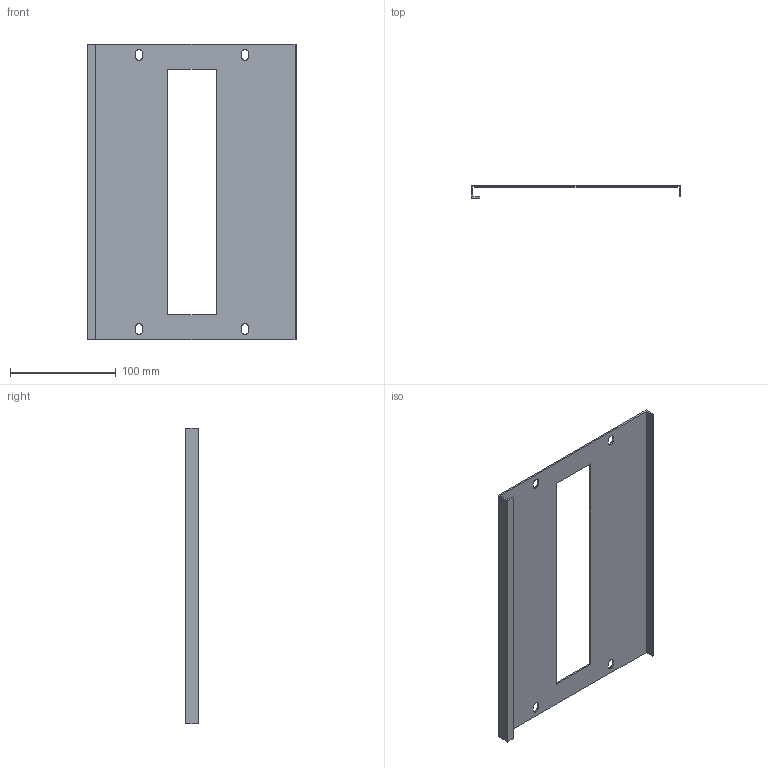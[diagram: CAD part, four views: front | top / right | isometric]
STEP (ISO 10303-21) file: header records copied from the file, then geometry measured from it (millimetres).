
FILE_DESCRIPTION (( 'STEP AP214' ), '1' );
FILE_NAME ('FO-00-PVM-020-040 Ïëàñòðîí äëÿ ìîäóëüíûõ óñòðîéñòâ 200õ400.STEP', '2025-08-26T08:10:19', ( '' ), ( '' ), 'SwSTEP 2.0', 'SolidWorks 2023', '' );
FILE_SCHEMA (( 'AUTOMOTIVE_DESIGN' ));
Length unit declared in the file: millimetre
Products named in the file (1): FO-00-PVM-020-040 Пластрон для модульных устройств 200х400
Bounding box: 198 x 12.5 x 279 mm (x, y, z)
Volume: 77553.1 mm3; surface area: 105913.6 mm2
Topology: 1 solids, 1 shells, 46 faces, 132 edges, 88 vertices
Faces by surface type: plane 34, cylinder 12
Entity records: 1543 total; most frequent: CARTESIAN_POINT 267, ORIENTED_EDGE 264, DIRECTION 250, EDGE_CURVE 132, VECTOR 108, LINE 108, VERTEX_POINT 88, AXIS2_PLACEMENT_3D 71
